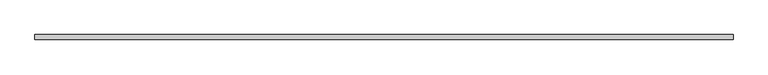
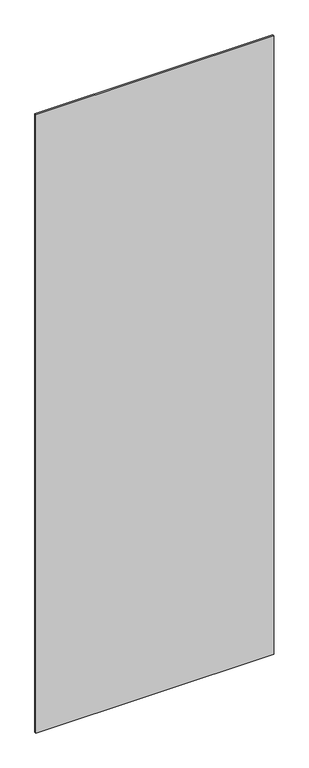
"""IFC4 building model written with IfcOpenShell, lengths in millimetres: plate geometry, システム パネル : 標準."""

from ifc_helpers import new_model, si_unit, origin, origin_with_axes, place, context, project, spatial, polyline, outline, extrude, source, transform, mapped, element, save


def plate_51db8471(model_context):
    return source(origin(), model_context, "Body", "SweptSolid", [
        extrude(outline(polyline([(702.2662701, -5.0), (-702.2662701, -5.0), (-702.2662701, 5.0), (702.2662701, 5.0), (702.2662701, -5.0)])), origin_with_axes(), (0.0, 0.0, 1.0), 3860.0),
    ])


if __name__ == "__main__":
    model = new_model("IFC4")
    model_context = context("Model", 3, world=origin())
    ifc_project = project(units=[si_unit("LENGTHUNIT", "METRE", prefix="MILLI")], contexts=[model_context])
    site = spatial("IfcSite", under=ifc_project)
    building = spatial("IfcBuilding", under=site)
    placement = place(None, origin())
    plate_shape = plate_51db8471(model_context)
    element("IfcPlate", 1, ObjectType="システム パネル : 標準", at=placement, inside=building, context=model_context, shape_type="MappedRepresentation", body=[
        mapped(plate_shape, transform((0.0, 0.0, 0.0), x_axis=(1.0, 0.0, 0.0), y_axis=(0.0, 1.0, 0.0), z_axis=(0.0, 0.0, 1.0))),
    ])
    save(model, "model.ifc")
